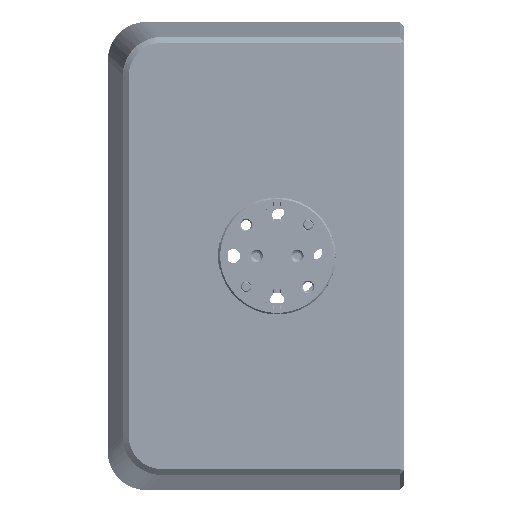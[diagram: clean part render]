
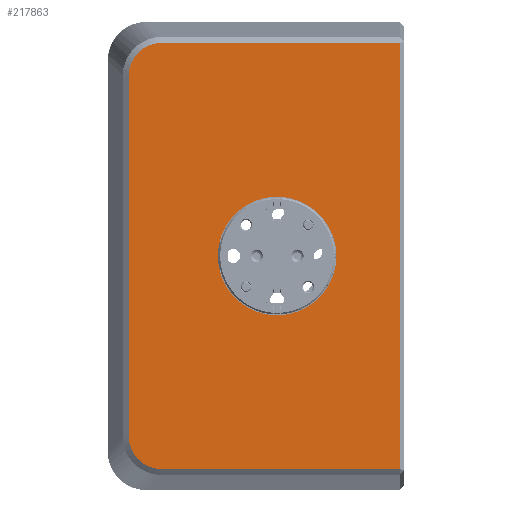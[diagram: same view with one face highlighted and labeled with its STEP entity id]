
A CAD part, left-side view. The second image highlights one B-rep face of the part: STEP entity #217863.
In plain terms, the highlighted planar face has unit normal (-1, 0, 0).
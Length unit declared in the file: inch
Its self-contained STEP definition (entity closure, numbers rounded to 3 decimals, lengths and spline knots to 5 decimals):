
#7345 = EDGE_CURVE ( 'NONE', #66626, #119215, #143746, .T. ) ;
#11804 = CARTESIAN_POINT ( 'NONE',  ( -4.25, -6.76124, 1.33885 ) ) ;
#14009 = CARTESIAN_POINT ( 'NONE',  ( -4.25, -7.60786, 0. ) ) ;
#16243 = CARTESIAN_POINT ( 'NONE',  ( -4.25, -6.81171, 1.35964 ) ) ;
#18998 = VECTOR ( 'NONE', #228014, 39.37008 ) ;
#19111 = VERTEX_POINT ( 'NONE', #204982 ) ;
#19422 = FACE_OUTER_BOUND ( 'NONE', #264158, .T. ) ;
#22357 = PLANE ( 'NONE',  #55526 ) ;
#25992 = VECTOR ( 'NONE', #221960, 39.37008 ) ;
#36538 = CARTESIAN_POINT ( 'NONE',  ( -4.25, -8.39286, 0. ) ) ;
#41949 = LINE ( 'NONE', #133280, #73905 ) ;
#46108 = CARTESIAN_POINT ( 'NONE',  ( -4.25, -7.60786, 0. ) ) ;
#47438 = EDGE_CURVE ( 'NONE', #150098, #106965, #148855, .T. ) ;
#48601 = CARTESIAN_POINT ( 'NONE',  ( -4.25, -6.6995, -1.28485 ) ) ;
#50000 = ORIENTED_EDGE ( 'NONE', *, *, #47438, .T. ) ;
#50268 = ORIENTED_EDGE ( 'NONE', *, *, #162178, .T. ) ;
#55526 = AXIS2_PLACEMENT_3D ( 'NONE', #137547, #157133, #199074 ) ;
#57131 = CARTESIAN_POINT ( 'NONE',  ( -4.25, -6.65778, -1.15616 ) ) ;
#61214 = CARTESIAN_POINT ( 'NONE',  ( -4.25, -6.6995, 1.28486 ) ) ;
#61247 = CIRCLE ( 'NONE', #70859, 0.38 ) ;
#66626 = VERTEX_POINT ( 'NONE', #268780 ) ;
#70859 = AXIS2_PLACEMENT_3D ( 'NONE', #46108, #71557, #161386 ) ;
#71557 = DIRECTION ( 'NONE',  ( -1., 0., 0. ) ) ;
#72564 = CARTESIAN_POINT ( 'NONE',  ( -4.25, -6.66321, -1.21114 ) ) ;
#73905 = VECTOR ( 'NONE', #242636, 39.37008 ) ;
#89258 = ORIENTED_EDGE ( 'NONE', *, *, #279720, .T. ) ;
#96928 = VERTEX_POINT ( 'NONE', #115014 ) ;
#103968 = ORIENTED_EDGE ( 'NONE', *, *, #7345, .F. ) ;
#104626 = EDGE_CURVE ( 'NONE', #119215, #66626, #61247, .T. ) ;
#106965 = VERTEX_POINT ( 'NONE', #226881 ) ;
#107807 = FACE_BOUND ( 'NONE', #279001, .T. ) ;
#115014 = CARTESIAN_POINT ( 'NONE',  ( -4.25, -6.8667, -1.36508 ) ) ;
#115968 = CARTESIAN_POINT ( 'NONE',  ( -4.25, -6.738, -1.32336 ) ) ;
#118735 = EDGE_CURVE ( 'NONE', #19111, #134541, #230990, .T. ) ;
#119215 = VERTEX_POINT ( 'NONE', #124694 ) ;
#124694 = CARTESIAN_POINT ( 'NONE',  ( -4.25, -7.60786, 0.38 ) ) ;
#132942 = CARTESIAN_POINT ( 'NONE',  ( -4.25, -6.65778, 1.1837 ) ) ;
#133280 = CARTESIAN_POINT ( 'NONE',  ( -4.25, -7.47286, 1.36508 ) ) ;
#134541 = VERTEX_POINT ( 'NONE', #57131 ) ;
#137321 = CARTESIAN_POINT ( 'NONE',  ( -4.25, -8.39286, -1.36508 ) ) ;
#137547 = CARTESIAN_POINT ( 'NONE',  ( -4.25, -7.47286, 0. ) ) ;
#143746 = CIRCLE ( 'NONE', #220141, 0.38 ) ;
#148855 = LINE ( 'NONE', #36538, #244428 ) ;
#150098 = VERTEX_POINT ( 'NONE', #137321 ) ;
#151001 = CARTESIAN_POINT ( 'NONE',  ( -4.25, -6.8667, 1.36508 ) ) ;
#153183 = LINE ( 'NONE', #244472, #25992 ) ;
#154447 = EDGE_CURVE ( 'NONE', #96928, #150098, #153183, .T. ) ;
#154981 = EDGE_CURVE ( 'NONE', #106965, #255620, #41949, .T. ) ;
#157133 = DIRECTION ( 'NONE',  ( 1., 0., 0. ) ) ;
#157980 = CARTESIAN_POINT ( 'NONE',  ( -4.25, -6.8667, -1.36508 ) ) ;
#160961 = CARTESIAN_POINT ( 'NONE',  ( -4.25, -6.8667, 1.36508 ) ) ;
#161386 = DIRECTION ( 'NONE',  ( 0., 0., 1. ) ) ;
#162178 = EDGE_CURVE ( 'NONE', #255620, #19111, #245967, .T. ) ;
#163895 = CARTESIAN_POINT ( 'NONE',  ( -4.25, -6.76124, -1.33884 ) ) ;
#174983 = CARTESIAN_POINT ( 'NONE',  ( -4.25, -6.738, 1.32336 ) ) ;
#175724 = DIRECTION ( 'NONE',  ( -1., 0., 0. ) ) ;
#176469 = CARTESIAN_POINT ( 'NONE',  ( -4.25, -6.66321, 1.21115 ) ) ;
#177192 = DIRECTION ( 'NONE',  ( 0., 0., 1. ) ) ;
#183218 = CARTESIAN_POINT ( 'NONE',  ( -4.25, -6.65778, 0. ) ) ;
#195782 = ORIENTED_EDGE ( 'NONE', *, *, #104626, .F. ) ;
#199074 = DIRECTION ( 'NONE',  ( 0., 0., -1. ) ) ;
#204271 = CARTESIAN_POINT ( 'NONE',  ( -4.25, -6.83915, -1.36508 ) ) ;
#204982 = CARTESIAN_POINT ( 'NONE',  ( -4.25, -6.65778, 1.15616 ) ) ;
#214692 = DIRECTION ( 'NONE',  ( 0., 0., 1. ) ) ;
#217863 = ADVANCED_FACE ( 'NONE', ( #107807, #19422 ), #22357, .F. ) ;
#220141 = AXIS2_PLACEMENT_3D ( 'NONE', #14009, #175724, #177192 ) ;
#221960 = DIRECTION ( 'NONE',  ( 0., -1., 0. ) ) ;
#226702 = CARTESIAN_POINT ( 'NONE',  ( -4.25, -6.68401, -1.26162 ) ) ;
#226881 = CARTESIAN_POINT ( 'NONE',  ( -4.25, -8.39286, 1.36508 ) ) ;
#228014 = DIRECTION ( 'NONE',  ( 0., 0., -1. ) ) ;
#228165 = CARTESIAN_POINT ( 'NONE',  ( -4.25, -6.65778, -1.18364 ) ) ;
#230990 = LINE ( 'NONE', #183218, #18998 ) ;
#237560 = ORIENTED_EDGE ( 'NONE', *, *, #154447, .T. ) ;
#242636 = DIRECTION ( 'NONE',  ( 0., 1., 0. ) ) ;
#244428 = VECTOR ( 'NONE', #214692, 39.37008 ) ;
#244472 = CARTESIAN_POINT ( 'NONE',  ( -4.25, -7.47286, -1.36508 ) ) ;
#244937 = ORIENTED_EDGE ( 'NONE', *, *, #118735, .T. ) ;
#245967 = B_SPLINE_CURVE_WITH_KNOTS ( 'NONE', 3,
 ( #151001, #288777, #16243, #11804, #174983, #61214, #266325, #176469, #132942, #246731 ),
 .UNSPECIFIED., .F., .F.,
 ( 4, 2, 2, 2, 4 ),
 ( 0., 0.25, 0.5, 0.75, 1. ),
 .UNSPECIFIED. ) ;
#246731 = CARTESIAN_POINT ( 'NONE',  ( -4.25, -6.65778, 1.15616 ) ) ;
#249319 = B_SPLINE_CURVE_WITH_KNOTS ( 'NONE', 3,
 ( #294236, #228165, #72564, #226702, #48601, #115968, #163895, #271747, #204271, #157980 ),
 .UNSPECIFIED., .F., .F.,
 ( 4, 2, 2, 2, 4 ),
 ( 0., 0.25, 0.5, 0.75, 1. ),
 .UNSPECIFIED. ) ;
#255620 = VERTEX_POINT ( 'NONE', #160961 ) ;
#264158 = EDGE_LOOP ( 'NONE', ( #89258, #237560, #50000, #274273, #50268, #244937 ) ) ;
#266325 = CARTESIAN_POINT ( 'NONE',  ( -4.25, -6.68401, 1.26162 ) ) ;
#268780 = CARTESIAN_POINT ( 'NONE',  ( -4.25, -7.60786, -0.38 ) ) ;
#271747 = CARTESIAN_POINT ( 'NONE',  ( -4.25, -6.81171, -1.35965 ) ) ;
#274273 = ORIENTED_EDGE ( 'NONE', *, *, #154981, .T. ) ;
#279001 = EDGE_LOOP ( 'NONE', ( #195782, #103968 ) ) ;
#279720 = EDGE_CURVE ( 'NONE', #134541, #96928, #249319, .T. ) ;
#288777 = CARTESIAN_POINT ( 'NONE',  ( -4.25, -6.83921, 1.36508 ) ) ;
#294236 = CARTESIAN_POINT ( 'NONE',  ( -4.25, -6.65778, -1.15616 ) ) ;
